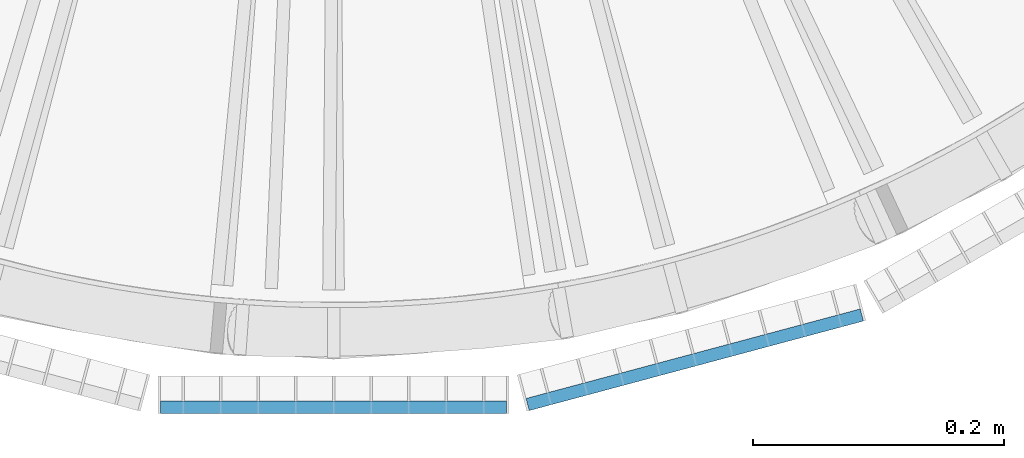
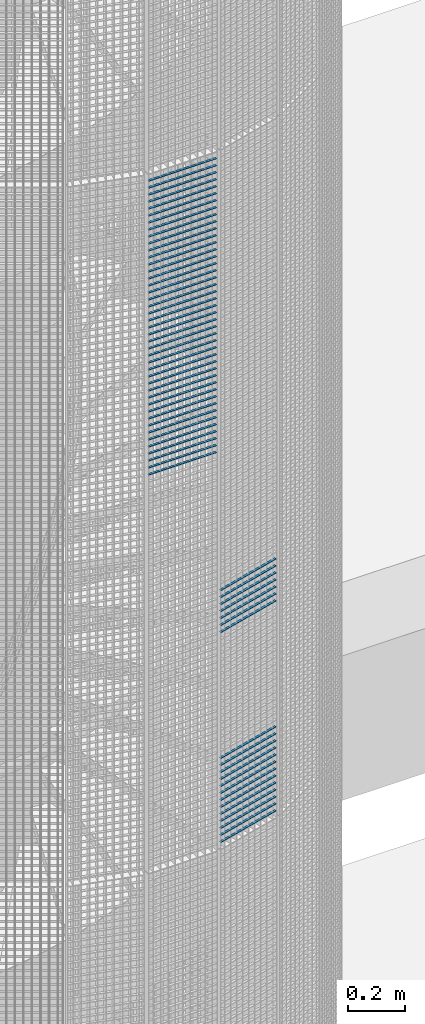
# One storey, part 143 of 1183: 63 beams, 2 elements without a shape of their own.
"""IFC2X3 building model written with IfcOpenShell, lengths in millimetres."""

from ifc_helpers import new_model, si_unit, frame, origin_with_axes, origin_2d_with_axis, place, context, subcontext, project, spatial, rectangle, extrude, material, type_object, element, aggregate, save


model = new_model("IFC2X3")

# Units and contexts
model_context = context("Model", 3, precision=1e-05, world=origin_with_axes())
body_context = subcontext(model_context, "Body", "Model", "MODEL_VIEW")
ifc_project = project(units=[si_unit("LENGTHUNIT", "METRE", prefix="MILLI"), si_unit("AREAUNIT", "SQUARE_METRE"), si_unit("VOLUMEUNIT", "CUBIC_METRE"), si_unit("MASSUNIT", "GRAM", prefix="KILO"), si_unit("TIMEUNIT", "SECOND"), si_unit("PLANEANGLEUNIT", "RADIAN"), si_unit("SOLIDANGLEUNIT", "STERADIAN"), si_unit("THERMODYNAMICTEMPERATUREUNIT", "DEGREE_CELSIUS"), si_unit("LUMINOUSINTENSITYUNIT", "LUMEN")], contexts=[model_context])

# Site, building, storey
site_placement = place(None, origin_with_axes())
site = spatial("IfcSite", under=ifc_project, at=site_placement, Name="Undefined", CompositionType="ELEMENT")
building_placement = place(site_placement, origin_with_axes())
building = spatial("IfcBuilding", under=site, at=building_placement, Name="Undefined", CompositionType="ELEMENT")
storey_placement = place(building_placement, origin_with_axes())
storey = spatial("IfcBuildingStorey", under=building, at=storey_placement, Name="Undefined", CompositionType="ELEMENT", Elevation=0.0)

# Assembly, beams
assembly_1_placement = place(storey_placement, origin_with_axes())
assembly_1 = element("IfcElementAssembly", 1, at=assembly_1_placement, inside=storey, Name="BORDURE", AssemblyPlace="NOTDEFINED", PredefinedType="NOTDEFINED")
ifc_material = material(Name="STEEL/S235JR")
beam_type = type_object("IfcBeamType", Name="PL2*10", PredefinedType="NOTDEFINED")
beam_1_placement = place(assembly_1_placement, frame((154.895926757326, -1111.25508286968, 12390.0), z_axis=(0.258819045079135, -0.965925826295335, 0.0), x_axis=(0.965925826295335, 0.258819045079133, 0.0)))
beam_1 = element("IfcBeam", 2, at=beam_1_placement, type_object=beam_type, material=ifc_material, Name="ENTRETOISE", context=body_context, shape_type="SweptSolid", body=[
    extrude(rectangle(XDim=2.0, YDim=10.0, at=origin_2d_with_axis()), frame((275.999999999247, 9.09494701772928e-13, 1.53210777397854e-14), z_axis=(-1.0, 0.0, 0.0), x_axis=(0.0, -1.0, 0.0)), (0.0, 0.0, 1.0), 276.0),
])
beam_2_placement = place(assembly_1_placement, frame((154.895926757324, -1111.25508286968, 12930.0), z_axis=(0.258819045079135, -0.965925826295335, 0.0), x_axis=(0.965925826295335, 0.258819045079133, 0.0)))
beam_2 = element("IfcBeam", 3, at=beam_2_placement, type_object=beam_type, material=ifc_material, Name="ENTRETOISE", context=body_context, shape_type="SweptSolid", body=[
    extrude(rectangle(XDim=2.0, YDim=10.0, at=origin_2d_with_axis()), frame((275.999999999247, 9.09494701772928e-13, 1.53210777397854e-14), z_axis=(-1.0, 0.0, 0.0), x_axis=(0.0, -1.0, 0.0)), (0.0, 0.0, 1.0), 276.0),
])
beam_3_placement = place(assembly_1_placement, frame((154.895926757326, -1111.25508286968, 12360.0), z_axis=(0.258819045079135, -0.965925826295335, 0.0), x_axis=(0.965925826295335, 0.258819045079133, 0.0)))
beam_3 = element("IfcBeam", 4, at=beam_3_placement, type_object=beam_type, material=ifc_material, Name="ENTRETOISE", context=body_context, shape_type="SweptSolid", body=[
    extrude(rectangle(XDim=2.0, YDim=10.0, at=origin_2d_with_axis()), frame((275.999999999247, 9.09494701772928e-13, 1.53210777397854e-14), z_axis=(-1.0, 0.0, 0.0), x_axis=(0.0, -1.0, 0.0)), (0.0, 0.0, 1.0), 276.0),
])
beam_4_placement = place(assembly_1_placement, frame((154.895926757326, -1111.25508286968, 12330.0), z_axis=(0.258819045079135, -0.965925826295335, 0.0), x_axis=(0.965925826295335, 0.258819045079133, 0.0)))
beam_4 = element("IfcBeam", 5, at=beam_4_placement, type_object=beam_type, material=ifc_material, Name="ENTRETOISE", context=body_context, shape_type="SweptSolid", body=[
    extrude(rectangle(XDim=2.0, YDim=10.0, at=origin_2d_with_axis()), frame((275.999999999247, 9.09494701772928e-13, 1.53210777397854e-14), z_axis=(-1.0, 0.0, 0.0), x_axis=(0.0, -1.0, 0.0)), (0.0, 0.0, 1.0), 276.0),
])
beam_5_placement = place(assembly_1_placement, frame((154.895926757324, -1111.25508286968, 12960.0), z_axis=(0.258819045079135, -0.965925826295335, 0.0), x_axis=(0.965925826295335, 0.258819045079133, 0.0)))
beam_5 = element("IfcBeam", 6, at=beam_5_placement, type_object=beam_type, material=ifc_material, Name="ENTRETOISE", context=body_context, shape_type="SweptSolid", body=[
    extrude(rectangle(XDim=2.0, YDim=10.0, at=origin_2d_with_axis()), frame((275.999999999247, 9.09494701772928e-13, 1.53210777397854e-14), z_axis=(-1.0, 0.0, 0.0), x_axis=(0.0, -1.0, 0.0)), (0.0, 0.0, 1.0), 276.0),
])
beam_6_placement = place(assembly_1_placement, frame((154.895926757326, -1111.25508286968, 12300.0), z_axis=(0.258819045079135, -0.965925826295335, 0.0), x_axis=(0.965925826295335, 0.258819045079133, 0.0)))
beam_6 = element("IfcBeam", 7, at=beam_6_placement, type_object=beam_type, material=ifc_material, Name="ENTRETOISE", context=body_context, shape_type="SweptSolid", body=[
    extrude(rectangle(XDim=2.0, YDim=10.0, at=origin_2d_with_axis()), frame((275.999999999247, 9.09494701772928e-13, 1.53210777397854e-14), z_axis=(-1.0, 0.0, 0.0), x_axis=(0.0, -1.0, 0.0)), (0.0, 0.0, 1.0), 276.0),
])
beam_7_placement = place(assembly_1_placement, frame((154.895926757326, -1111.25508286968, 12270.0), z_axis=(0.258819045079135, -0.965925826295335, 0.0), x_axis=(0.965925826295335, 0.258819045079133, 0.0)))
beam_7 = element("IfcBeam", 8, at=beam_7_placement, type_object=beam_type, material=ifc_material, Name="ENTRETOISE", context=body_context, shape_type="SweptSolid", body=[
    extrude(rectangle(XDim=2.0, YDim=10.0, at=origin_2d_with_axis()), frame((275.999999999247, 9.09494701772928e-13, 1.53210777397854e-14), z_axis=(-1.0, 0.0, 0.0), x_axis=(0.0, -1.0, 0.0)), (0.0, 0.0, 1.0), 276.0),
])
beam_8_placement = place(assembly_1_placement, frame((154.895926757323, -1111.25508286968, 12990.0), z_axis=(0.258819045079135, -0.965925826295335, 0.0), x_axis=(0.965925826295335, 0.258819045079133, 0.0)))
beam_8 = element("IfcBeam", 9, at=beam_8_placement, type_object=beam_type, material=ifc_material, Name="ENTRETOISE", context=body_context, shape_type="SweptSolid", body=[
    extrude(rectangle(XDim=2.0, YDim=10.0, at=origin_2d_with_axis()), frame((275.999999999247, 9.09494701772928e-13, 1.53210777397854e-14), z_axis=(-1.0, 0.0, 0.0), x_axis=(0.0, -1.0, 0.0)), (0.0, 0.0, 1.0), 276.0),
])
beam_9_placement = place(assembly_1_placement, frame((154.895926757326, -1111.25508286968, 12240.0), z_axis=(0.258819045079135, -0.965925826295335, 0.0), x_axis=(0.965925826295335, 0.258819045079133, 0.0)))
beam_9 = element("IfcBeam", 10, at=beam_9_placement, type_object=beam_type, material=ifc_material, Name="ENTRETOISE", context=body_context, shape_type="SweptSolid", body=[
    extrude(rectangle(XDim=2.0, YDim=10.0, at=origin_2d_with_axis()), frame((275.999999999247, 9.09494701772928e-13, 1.53210777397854e-14), z_axis=(-1.0, 0.0, 0.0), x_axis=(0.0, -1.0, 0.0)), (0.0, 0.0, 1.0), 276.0),
])
beam_10_placement = place(assembly_1_placement, frame((154.895926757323, -1111.25508286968, 13020.0), z_axis=(0.258819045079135, -0.965925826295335, 0.0), x_axis=(0.965925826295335, 0.258819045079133, 0.0)))
beam_10 = element("IfcBeam", 11, at=beam_10_placement, type_object=beam_type, material=ifc_material, Name="ENTRETOISE", context=body_context, shape_type="SweptSolid", body=[
    extrude(rectangle(XDim=2.0, YDim=10.0, at=origin_2d_with_axis()), frame((275.999999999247, 9.09494701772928e-13, 1.53210777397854e-14), z_axis=(-1.0, 0.0, 0.0), x_axis=(0.0, -1.0, 0.0)), (0.0, 0.0, 1.0), 276.0),
])
beam_11_placement = place(assembly_1_placement, frame((154.895926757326, -1111.25508286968, 12210.0), z_axis=(0.258819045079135, -0.965925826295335, 0.0), x_axis=(0.965925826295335, 0.258819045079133, 0.0)))
beam_11 = element("IfcBeam", 12, at=beam_11_placement, type_object=beam_type, material=ifc_material, Name="ENTRETOISE", context=body_context, shape_type="SweptSolid", body=[
    extrude(rectangle(XDim=2.0, YDim=10.0, at=origin_2d_with_axis()), frame((275.999999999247, 9.09494701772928e-13, 1.53210777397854e-14), z_axis=(-1.0, 0.0, 0.0), x_axis=(0.0, -1.0, 0.0)), (0.0, 0.0, 1.0), 276.0),
])
beam_12_placement = place(assembly_1_placement, frame((154.895926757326, -1111.25508286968, 12180.0), z_axis=(0.258819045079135, -0.965925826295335, 0.0), x_axis=(0.965925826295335, 0.258819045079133, 0.0)))
beam_12 = element("IfcBeam", 13, at=beam_12_placement, type_object=beam_type, material=ifc_material, Name="ENTRETOISE", context=body_context, shape_type="SweptSolid", body=[
    extrude(rectangle(XDim=2.0, YDim=10.0, at=origin_2d_with_axis()), frame((275.999999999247, 9.09494701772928e-13, 1.53210777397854e-14), z_axis=(-1.0, 0.0, 0.0), x_axis=(0.0, -1.0, 0.0)), (0.0, 0.0, 1.0), 276.0),
])
beam_13_placement = place(assembly_1_placement, frame((154.895926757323, -1111.25508286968, 13050.0), z_axis=(0.258819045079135, -0.965925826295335, 0.0), x_axis=(0.965925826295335, 0.258819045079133, 0.0)))
beam_13 = element("IfcBeam", 14, at=beam_13_placement, type_object=beam_type, material=ifc_material, Name="ENTRETOISE", context=body_context, shape_type="SweptSolid", body=[
    extrude(rectangle(XDim=2.0, YDim=10.0, at=origin_2d_with_axis()), frame((275.999999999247, 9.09494701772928e-13, 1.53210777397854e-14), z_axis=(-1.0, 0.0, 0.0), x_axis=(0.0, -1.0, 0.0)), (0.0, 0.0, 1.0), 276.0),
])
beam_14_placement = place(assembly_1_placement, frame((154.895926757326, -1111.25508286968, 12150.0), z_axis=(0.258819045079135, -0.965925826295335, 0.0), x_axis=(0.965925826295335, 0.258819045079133, 0.0)))
beam_14 = element("IfcBeam", 15, at=beam_14_placement, type_object=beam_type, material=ifc_material, Name="ENTRETOISE", context=body_context, shape_type="SweptSolid", body=[
    extrude(rectangle(XDim=2.0, YDim=10.0, at=origin_2d_with_axis()), frame((275.999999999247, 9.09494701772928e-13, 1.53210777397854e-14), z_axis=(-1.0, 0.0, 0.0), x_axis=(0.0, -1.0, 0.0)), (0.0, 0.0, 1.0), 276.0),
])
beam_15_placement = place(assembly_1_placement, frame((154.895926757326, -1111.25508286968, 12120.0), z_axis=(0.258819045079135, -0.965925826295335, 0.0), x_axis=(0.965925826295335, 0.258819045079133, 0.0)))
beam_15 = element("IfcBeam", 16, at=beam_15_placement, type_object=beam_type, material=ifc_material, Name="ENTRETOISE", context=body_context, shape_type="SweptSolid", body=[
    extrude(rectangle(XDim=2.0, YDim=10.0, at=origin_2d_with_axis()), frame((275.999999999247, 9.09494701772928e-13, 1.53210777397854e-14), z_axis=(-1.0, 0.0, 0.0), x_axis=(0.0, -1.0, 0.0)), (0.0, 0.0, 1.0), 276.0),
])
beam_16_placement = place(assembly_1_placement, frame((154.895926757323, -1111.25508286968, 13080.0), z_axis=(0.258819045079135, -0.965925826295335, 0.0), x_axis=(0.965925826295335, 0.258819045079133, 0.0)))
beam_16 = element("IfcBeam", 17, at=beam_16_placement, type_object=beam_type, material=ifc_material, Name="ENTRETOISE", context=body_context, shape_type="SweptSolid", body=[
    extrude(rectangle(XDim=2.0, YDim=10.0, at=origin_2d_with_axis()), frame((275.999999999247, 9.09494701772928e-13, 1.53210777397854e-14), z_axis=(-1.0, 0.0, 0.0), x_axis=(0.0, -1.0, 0.0)), (0.0, 0.0, 1.0), 276.0),
])
beam_17_placement = place(assembly_1_placement, frame((154.895926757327, -1111.25508286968, 12090.0), z_axis=(0.258819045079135, -0.965925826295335, 0.0), x_axis=(0.965925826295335, 0.258819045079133, 0.0)))
beam_17 = element("IfcBeam", 18, at=beam_17_placement, type_object=beam_type, material=ifc_material, Name="ENTRETOISE", context=body_context, shape_type="SweptSolid", body=[
    extrude(rectangle(XDim=2.0, YDim=10.0, at=origin_2d_with_axis()), frame((275.999999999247, 9.09494701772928e-13, 1.53210777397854e-14), z_axis=(-1.0, 0.0, 0.0), x_axis=(0.0, -1.0, 0.0)), (0.0, 0.0, 1.0), 276.0),
])
beam_18_placement = place(assembly_1_placement, frame((154.895926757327, -1111.25508286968, 12060.0), z_axis=(0.258819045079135, -0.965925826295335, 0.0), x_axis=(0.965925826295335, 0.258819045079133, 0.0)))
beam_18 = element("IfcBeam", 19, at=beam_18_placement, type_object=beam_type, material=ifc_material, Name="ENTRETOISE", context=body_context, shape_type="SweptSolid", body=[
    extrude(rectangle(XDim=2.0, YDim=10.0, at=origin_2d_with_axis()), frame((275.999999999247, 9.09494701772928e-13, 1.53210777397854e-14), z_axis=(-1.0, 0.0, 0.0), x_axis=(0.0, -1.0, 0.0)), (0.0, 0.0, 1.0), 276.0),
])
beam_19_placement = place(assembly_1_placement, frame((154.895926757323, -1111.25508286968, 13110.0), z_axis=(0.258819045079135, -0.965925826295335, 0.0), x_axis=(0.965925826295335, 0.258819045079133, 0.0)))
beam_19 = element("IfcBeam", 20, at=beam_19_placement, type_object=beam_type, material=ifc_material, Name="ENTRETOISE", context=body_context, shape_type="SweptSolid", body=[
    extrude(rectangle(XDim=2.0, YDim=10.0, at=origin_2d_with_axis()), frame((275.999999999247, 9.09494701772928e-13, 1.53210777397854e-14), z_axis=(-1.0, 0.0, 0.0), x_axis=(0.0, -1.0, 0.0)), (0.0, 0.0, 1.0), 276.0),
])
beam_20_placement = place(assembly_1_placement, frame((154.895926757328, -1111.25508286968, 12030.0), z_axis=(0.258819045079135, -0.965925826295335, 0.0), x_axis=(0.965925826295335, 0.258819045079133, 0.0)))
beam_20 = element("IfcBeam", 21, at=beam_20_placement, type_object=beam_type, material=ifc_material, Name="ENTRETOISE", context=body_context, shape_type="SweptSolid", body=[
    extrude(rectangle(XDim=2.0, YDim=10.0, at=origin_2d_with_axis()), frame((275.999999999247, 9.09494701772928e-13, 1.53210777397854e-14), z_axis=(-1.0, 0.0, 0.0), x_axis=(0.0, -1.0, 0.0)), (0.0, 0.0, 1.0), 276.0),
])
aggregate(assembly_1, [beam_1, beam_2, beam_3, beam_4, beam_5, beam_6, beam_7, beam_8, beam_9, beam_10, beam_11, beam_12, beam_13, beam_14, beam_15, beam_16, beam_17, beam_18, beam_19, beam_20])

assembly_2_placement = place(storey_placement, origin_with_axes())
assembly_2 = element("IfcElementAssembly", 22, at=assembly_2_placement, inside=storey, Name="BORDURE", AssemblyPlace="NOTDEFINED", PredefinedType="NOTDEFINED")
beam_21_placement = place(assembly_2_placement, frame((-137.996003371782, -1113.47999999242, 14970.0), z_axis=(0.0, -1.0, 0.0), x_axis=(1.0, 0.0, 0.0)))
beam_21 = element("IfcBeam", 23, at=beam_21_placement, type_object=beam_type, material=ifc_material, Name="ENTRETOISE", context=body_context, shape_type="SweptSolid", body=[
    extrude(rectangle(XDim=2.0, YDim=10.0, at=origin_2d_with_axis()), frame((275.999999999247, 9.09494701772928e-13, 1.53210777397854e-14), z_axis=(-1.0, 0.0, 0.0), x_axis=(0.0, -1.0, 0.0)), (0.0, 0.0, 1.0), 276.0),
])
beam_22_placement = place(assembly_2_placement, frame((-137.996003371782, -1113.47999999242, 14940.0), z_axis=(0.0, -1.0, 0.0), x_axis=(1.0, 0.0, 0.0)))
beam_22 = element("IfcBeam", 24, at=beam_22_placement, type_object=beam_type, material=ifc_material, Name="ENTRETOISE", context=body_context, shape_type="SweptSolid", body=[
    extrude(rectangle(XDim=2.0, YDim=10.0, at=origin_2d_with_axis()), frame((275.999999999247, 9.09494701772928e-13, 1.53210777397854e-14), z_axis=(-1.0, 0.0, 0.0), x_axis=(0.0, -1.0, 0.0)), (0.0, 0.0, 1.0), 276.0),
])
beam_23_placement = place(assembly_2_placement, frame((-137.996003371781, -1113.47999999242, 14910.0), z_axis=(0.0, -1.0, 0.0), x_axis=(1.0, 0.0, 0.0)))
beam_23 = element("IfcBeam", 25, at=beam_23_placement, type_object=beam_type, material=ifc_material, Name="ENTRETOISE", context=body_context, shape_type="SweptSolid", body=[
    extrude(rectangle(XDim=2.0, YDim=10.0, at=origin_2d_with_axis()), frame((275.999999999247, 9.09494701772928e-13, 1.53210777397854e-14), z_axis=(-1.0, 0.0, 0.0), x_axis=(0.0, -1.0, 0.0)), (0.0, 0.0, 1.0), 276.0),
])
beam_24_placement = place(assembly_2_placement, frame((-137.996003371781, -1113.47999999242, 14880.0), z_axis=(0.0, -1.0, 0.0), x_axis=(1.0, 0.0, 0.0)))
beam_24 = element("IfcBeam", 26, at=beam_24_placement, type_object=beam_type, material=ifc_material, Name="ENTRETOISE", context=body_context, shape_type="SweptSolid", body=[
    extrude(rectangle(XDim=2.0, YDim=10.0, at=origin_2d_with_axis()), frame((275.999999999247, 9.09494701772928e-13, 1.53210777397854e-14), z_axis=(-1.0, 0.0, 0.0), x_axis=(0.0, -1.0, 0.0)), (0.0, 0.0, 1.0), 276.0),
])
beam_25_placement = place(assembly_2_placement, frame((-137.996003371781, -1113.47999999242, 14850.0), z_axis=(0.0, -1.0, 0.0), x_axis=(1.0, 0.0, 0.0)))
beam_25 = element("IfcBeam", 27, at=beam_25_placement, type_object=beam_type, material=ifc_material, Name="ENTRETOISE", context=body_context, shape_type="SweptSolid", body=[
    extrude(rectangle(XDim=2.0, YDim=10.0, at=origin_2d_with_axis()), frame((275.999999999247, 9.09494701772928e-13, 1.53210777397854e-14), z_axis=(-1.0, 0.0, 0.0), x_axis=(0.0, -1.0, 0.0)), (0.0, 0.0, 1.0), 276.0),
])
beam_26_placement = place(assembly_2_placement, frame((-137.996003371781, -1113.47999999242, 14820.0), z_axis=(0.0, -1.0, 0.0), x_axis=(1.0, 0.0, 0.0)))
beam_26 = element("IfcBeam", 28, at=beam_26_placement, type_object=beam_type, material=ifc_material, Name="ENTRETOISE", context=body_context, shape_type="SweptSolid", body=[
    extrude(rectangle(XDim=2.0, YDim=10.0, at=origin_2d_with_axis()), frame((275.999999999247, 9.09494701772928e-13, 1.53210777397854e-14), z_axis=(-1.0, 0.0, 0.0), x_axis=(0.0, -1.0, 0.0)), (0.0, 0.0, 1.0), 276.0),
])
beam_27_placement = place(assembly_2_placement, frame((-137.996003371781, -1113.47999999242, 14790.0), z_axis=(0.0, -1.0, 0.0), x_axis=(1.0, 0.0, 0.0)))
beam_27 = element("IfcBeam", 29, at=beam_27_placement, type_object=beam_type, material=ifc_material, Name="ENTRETOISE", context=body_context, shape_type="SweptSolid", body=[
    extrude(rectangle(XDim=2.0, YDim=10.0, at=origin_2d_with_axis()), frame((275.999999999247, 9.09494701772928e-13, 1.53210777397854e-14), z_axis=(-1.0, 0.0, 0.0), x_axis=(0.0, -1.0, 0.0)), (0.0, 0.0, 1.0), 276.0),
])
beam_28_placement = place(assembly_2_placement, frame((-137.996003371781, -1113.47999999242, 14760.0), z_axis=(0.0, -1.0, 0.0), x_axis=(1.0, 0.0, 0.0)))
beam_28 = element("IfcBeam", 30, at=beam_28_placement, type_object=beam_type, material=ifc_material, Name="ENTRETOISE", context=body_context, shape_type="SweptSolid", body=[
    extrude(rectangle(XDim=2.0, YDim=10.0, at=origin_2d_with_axis()), frame((275.999999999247, 9.09494701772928e-13, 1.53210777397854e-14), z_axis=(-1.0, 0.0, 0.0), x_axis=(0.0, -1.0, 0.0)), (0.0, 0.0, 1.0), 276.0),
])
beam_29_placement = place(assembly_2_placement, frame((-137.996003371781, -1113.47999999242, 14730.0), z_axis=(0.0, -1.0, 0.0), x_axis=(1.0, 0.0, 0.0)))
beam_29 = element("IfcBeam", 31, at=beam_29_placement, type_object=beam_type, material=ifc_material, Name="ENTRETOISE", context=body_context, shape_type="SweptSolid", body=[
    extrude(rectangle(XDim=2.0, YDim=10.0, at=origin_2d_with_axis()), frame((275.999999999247, 9.09494701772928e-13, 1.53210777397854e-14), z_axis=(-1.0, 0.0, 0.0), x_axis=(0.0, -1.0, 0.0)), (0.0, 0.0, 1.0), 276.0),
])
beam_30_placement = place(assembly_2_placement, frame((-137.996003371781, -1113.47999999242, 14700.0), z_axis=(0.0, -1.0, 0.0), x_axis=(1.0, 0.0, 0.0)))
beam_30 = element("IfcBeam", 32, at=beam_30_placement, type_object=beam_type, material=ifc_material, Name="ENTRETOISE", context=body_context, shape_type="SweptSolid", body=[
    extrude(rectangle(XDim=2.0, YDim=10.0, at=origin_2d_with_axis()), frame((275.999999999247, 9.09494701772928e-13, 1.53210777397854e-14), z_axis=(-1.0, 0.0, 0.0), x_axis=(0.0, -1.0, 0.0)), (0.0, 0.0, 1.0), 276.0),
])
beam_31_placement = place(assembly_2_placement, frame((-137.996003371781, -1113.47999999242, 14670.0), z_axis=(0.0, -1.0, 0.0), x_axis=(1.0, 0.0, 0.0)))
beam_31 = element("IfcBeam", 33, at=beam_31_placement, type_object=beam_type, material=ifc_material, Name="ENTRETOISE", context=body_context, shape_type="SweptSolid", body=[
    extrude(rectangle(XDim=2.0, YDim=10.0, at=origin_2d_with_axis()), frame((275.999999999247, 9.09494701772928e-13, 1.53210777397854e-14), z_axis=(-1.0, 0.0, 0.0), x_axis=(0.0, -1.0, 0.0)), (0.0, 0.0, 1.0), 276.0),
])
beam_32_placement = place(assembly_2_placement, frame((-137.996003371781, -1113.47999999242, 14640.0), z_axis=(0.0, -1.0, 0.0), x_axis=(1.0, 0.0, 0.0)))
beam_32 = element("IfcBeam", 34, at=beam_32_placement, type_object=beam_type, material=ifc_material, Name="ENTRETOISE", context=body_context, shape_type="SweptSolid", body=[
    extrude(rectangle(XDim=2.0, YDim=10.0, at=origin_2d_with_axis()), frame((275.999999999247, 9.09494701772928e-13, 1.53210777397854e-14), z_axis=(-1.0, 0.0, 0.0), x_axis=(0.0, -1.0, 0.0)), (0.0, 0.0, 1.0), 276.0),
])
beam_33_placement = place(assembly_2_placement, frame((-137.99600337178, -1113.47999999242, 14610.0), z_axis=(0.0, -1.0, 0.0), x_axis=(1.0, 0.0, 0.0)))
beam_33 = element("IfcBeam", 35, at=beam_33_placement, type_object=beam_type, material=ifc_material, Name="ENTRETOISE", context=body_context, shape_type="SweptSolid", body=[
    extrude(rectangle(XDim=2.0, YDim=10.0, at=origin_2d_with_axis()), frame((275.999999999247, 9.09494701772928e-13, 1.53210777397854e-14), z_axis=(-1.0, 0.0, 0.0), x_axis=(0.0, -1.0, 0.0)), (0.0, 0.0, 1.0), 276.0),
])
beam_34_placement = place(assembly_2_placement, frame((-137.99600337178, -1113.47999999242, 14580.0), z_axis=(0.0, -1.0, 0.0), x_axis=(1.0, 0.0, 0.0)))
beam_34 = element("IfcBeam", 36, at=beam_34_placement, type_object=beam_type, material=ifc_material, Name="ENTRETOISE", context=body_context, shape_type="SweptSolid", body=[
    extrude(rectangle(XDim=2.0, YDim=10.0, at=origin_2d_with_axis()), frame((275.999999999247, 9.09494701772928e-13, 1.53210777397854e-14), z_axis=(-1.0, 0.0, 0.0), x_axis=(0.0, -1.0, 0.0)), (0.0, 0.0, 1.0), 276.0),
])
beam_35_placement = place(assembly_2_placement, frame((-137.99600337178, -1113.47999999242, 14550.0), z_axis=(0.0, -1.0, 0.0), x_axis=(1.0, 0.0, 0.0)))
beam_35 = element("IfcBeam", 37, at=beam_35_placement, type_object=beam_type, material=ifc_material, Name="ENTRETOISE", context=body_context, shape_type="SweptSolid", body=[
    extrude(rectangle(XDim=2.0, YDim=10.0, at=origin_2d_with_axis()), frame((275.999999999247, 9.09494701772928e-13, 1.53210777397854e-14), z_axis=(-1.0, 0.0, 0.0), x_axis=(0.0, -1.0, 0.0)), (0.0, 0.0, 1.0), 276.0),
])
beam_36_placement = place(assembly_2_placement, frame((-137.99600337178, -1113.47999999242, 14520.0), z_axis=(0.0, -1.0, 0.0), x_axis=(1.0, 0.0, 0.0)))
beam_36 = element("IfcBeam", 38, at=beam_36_placement, type_object=beam_type, material=ifc_material, Name="ENTRETOISE", context=body_context, shape_type="SweptSolid", body=[
    extrude(rectangle(XDim=2.0, YDim=10.0, at=origin_2d_with_axis()), frame((275.999999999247, 9.09494701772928e-13, 1.53210777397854e-14), z_axis=(-1.0, 0.0, 0.0), x_axis=(0.0, -1.0, 0.0)), (0.0, 0.0, 1.0), 276.0),
])
beam_37_placement = place(assembly_2_placement, frame((-137.99600337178, -1113.47999999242, 14490.0), z_axis=(0.0, -1.0, 0.0), x_axis=(1.0, 0.0, 0.0)))
beam_37 = element("IfcBeam", 39, at=beam_37_placement, type_object=beam_type, material=ifc_material, Name="ENTRETOISE", context=body_context, shape_type="SweptSolid", body=[
    extrude(rectangle(XDim=2.0, YDim=10.0, at=origin_2d_with_axis()), frame((275.999999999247, 9.09494701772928e-13, 1.53210777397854e-14), z_axis=(-1.0, 0.0, 0.0), x_axis=(0.0, -1.0, 0.0)), (0.0, 0.0, 1.0), 276.0),
])
beam_38_placement = place(assembly_2_placement, frame((-137.99600337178, -1113.47999999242, 14460.0), z_axis=(0.0, -1.0, 0.0), x_axis=(1.0, 0.0, 0.0)))
beam_38 = element("IfcBeam", 40, at=beam_38_placement, type_object=beam_type, material=ifc_material, Name="ENTRETOISE", context=body_context, shape_type="SweptSolid", body=[
    extrude(rectangle(XDim=2.0, YDim=10.0, at=origin_2d_with_axis()), frame((275.999999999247, 9.09494701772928e-13, 1.53210777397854e-14), z_axis=(-1.0, 0.0, 0.0), x_axis=(0.0, -1.0, 0.0)), (0.0, 0.0, 1.0), 276.0),
])
beam_39_placement = place(assembly_2_placement, frame((-137.99600337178, -1113.47999999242, 14430.0), z_axis=(0.0, -1.0, 0.0), x_axis=(1.0, 0.0, 0.0)))
beam_39 = element("IfcBeam", 41, at=beam_39_placement, type_object=beam_type, material=ifc_material, Name="ENTRETOISE", context=body_context, shape_type="SweptSolid", body=[
    extrude(rectangle(XDim=2.0, YDim=10.0, at=origin_2d_with_axis()), frame((275.999999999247, 9.09494701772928e-13, 1.53210777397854e-14), z_axis=(-1.0, 0.0, 0.0), x_axis=(0.0, -1.0, 0.0)), (0.0, 0.0, 1.0), 276.0),
])
beam_40_placement = place(assembly_2_placement, frame((-137.99600337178, -1113.47999999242, 14400.0), z_axis=(0.0, -1.0, 0.0), x_axis=(1.0, 0.0, 0.0)))
beam_40 = element("IfcBeam", 42, at=beam_40_placement, type_object=beam_type, material=ifc_material, Name="ENTRETOISE", context=body_context, shape_type="SweptSolid", body=[
    extrude(rectangle(XDim=2.0, YDim=10.0, at=origin_2d_with_axis()), frame((275.999999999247, 9.09494701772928e-13, 1.53210777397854e-14), z_axis=(-1.0, 0.0, 0.0), x_axis=(0.0, -1.0, 0.0)), (0.0, 0.0, 1.0), 276.0),
])
beam_41_placement = place(assembly_2_placement, frame((-137.99600337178, -1113.47999999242, 14370.0), z_axis=(0.0, -1.0, 0.0), x_axis=(1.0, 0.0, 0.0)))
beam_41 = element("IfcBeam", 43, at=beam_41_placement, type_object=beam_type, material=ifc_material, Name="ENTRETOISE", context=body_context, shape_type="SweptSolid", body=[
    extrude(rectangle(XDim=2.0, YDim=10.0, at=origin_2d_with_axis()), frame((275.999999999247, 9.09494701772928e-13, 1.53210777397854e-14), z_axis=(-1.0, 0.0, 0.0), x_axis=(0.0, -1.0, 0.0)), (0.0, 0.0, 1.0), 276.0),
])
beam_42_placement = place(assembly_2_placement, frame((-137.99600337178, -1113.47999999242, 14340.0), z_axis=(0.0, -1.0, 0.0), x_axis=(1.0, 0.0, 0.0)))
beam_42 = element("IfcBeam", 44, at=beam_42_placement, type_object=beam_type, material=ifc_material, Name="ENTRETOISE", context=body_context, shape_type="SweptSolid", body=[
    extrude(rectangle(XDim=2.0, YDim=10.0, at=origin_2d_with_axis()), frame((275.999999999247, 9.09494701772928e-13, 1.53210777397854e-14), z_axis=(-1.0, 0.0, 0.0), x_axis=(0.0, -1.0, 0.0)), (0.0, 0.0, 1.0), 276.0),
])
beam_43_placement = place(assembly_2_placement, frame((-137.996003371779, -1113.47999999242, 14310.0), z_axis=(0.0, -1.0, 0.0), x_axis=(1.0, 0.0, 0.0)))
beam_43 = element("IfcBeam", 45, at=beam_43_placement, type_object=beam_type, material=ifc_material, Name="ENTRETOISE", context=body_context, shape_type="SweptSolid", body=[
    extrude(rectangle(XDim=2.0, YDim=10.0, at=origin_2d_with_axis()), frame((275.999999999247, 9.09494701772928e-13, 1.53210777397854e-14), z_axis=(-1.0, 0.0, 0.0), x_axis=(0.0, -1.0, 0.0)), (0.0, 0.0, 1.0), 276.0),
])
beam_44_placement = place(assembly_2_placement, frame((-137.996003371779, -1113.47999999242, 14280.0), z_axis=(0.0, -1.0, 0.0), x_axis=(1.0, 0.0, 0.0)))
beam_44 = element("IfcBeam", 46, at=beam_44_placement, type_object=beam_type, material=ifc_material, Name="ENTRETOISE", context=body_context, shape_type="SweptSolid", body=[
    extrude(rectangle(XDim=2.0, YDim=10.0, at=origin_2d_with_axis()), frame((275.999999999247, 9.09494701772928e-13, 1.53210777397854e-14), z_axis=(-1.0, 0.0, 0.0), x_axis=(0.0, -1.0, 0.0)), (0.0, 0.0, 1.0), 276.0),
])
beam_45_placement = place(assembly_2_placement, frame((-137.996003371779, -1113.47999999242, 14250.0), z_axis=(0.0, -1.0, 0.0), x_axis=(1.0, 0.0, 0.0)))
beam_45 = element("IfcBeam", 47, at=beam_45_placement, type_object=beam_type, material=ifc_material, Name="ENTRETOISE", context=body_context, shape_type="SweptSolid", body=[
    extrude(rectangle(XDim=2.0, YDim=10.0, at=origin_2d_with_axis()), frame((275.999999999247, 9.09494701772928e-13, 1.53210777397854e-14), z_axis=(-1.0, 0.0, 0.0), x_axis=(0.0, -1.0, 0.0)), (0.0, 0.0, 1.0), 276.0),
])
beam_46_placement = place(assembly_2_placement, frame((-137.996003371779, -1113.47999999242, 14220.0), z_axis=(0.0, -1.0, 0.0), x_axis=(1.0, 0.0, 0.0)))
beam_46 = element("IfcBeam", 48, at=beam_46_placement, type_object=beam_type, material=ifc_material, Name="ENTRETOISE", context=body_context, shape_type="SweptSolid", body=[
    extrude(rectangle(XDim=2.0, YDim=10.0, at=origin_2d_with_axis()), frame((275.999999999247, 9.09494701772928e-13, 1.53210777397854e-14), z_axis=(-1.0, 0.0, 0.0), x_axis=(0.0, -1.0, 0.0)), (0.0, 0.0, 1.0), 276.0),
])
beam_47_placement = place(assembly_2_placement, frame((-137.996003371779, -1113.47999999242, 14190.0), z_axis=(0.0, -1.0, 0.0), x_axis=(1.0, 0.0, 0.0)))
beam_47 = element("IfcBeam", 49, at=beam_47_placement, type_object=beam_type, material=ifc_material, Name="ENTRETOISE", context=body_context, shape_type="SweptSolid", body=[
    extrude(rectangle(XDim=2.0, YDim=10.0, at=origin_2d_with_axis()), frame((275.999999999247, 9.09494701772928e-13, 1.53210777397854e-14), z_axis=(-1.0, 0.0, 0.0), x_axis=(0.0, -1.0, 0.0)), (0.0, 0.0, 1.0), 276.0),
])
beam_48_placement = place(assembly_2_placement, frame((-137.996003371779, -1113.47999999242, 14160.0), z_axis=(0.0, -1.0, 0.0), x_axis=(1.0, 0.0, 0.0)))
beam_48 = element("IfcBeam", 50, at=beam_48_placement, type_object=beam_type, material=ifc_material, Name="ENTRETOISE", context=body_context, shape_type="SweptSolid", body=[
    extrude(rectangle(XDim=2.0, YDim=10.0, at=origin_2d_with_axis()), frame((275.999999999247, 9.09494701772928e-13, 1.53210777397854e-14), z_axis=(-1.0, 0.0, 0.0), x_axis=(0.0, -1.0, 0.0)), (0.0, 0.0, 1.0), 276.0),
])
beam_49_placement = place(assembly_2_placement, frame((-137.996003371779, -1113.47999999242, 14130.0), z_axis=(0.0, -1.0, 0.0), x_axis=(1.0, 0.0, 0.0)))
beam_49 = element("IfcBeam", 51, at=beam_49_placement, type_object=beam_type, material=ifc_material, Name="ENTRETOISE", context=body_context, shape_type="SweptSolid", body=[
    extrude(rectangle(XDim=2.0, YDim=10.0, at=origin_2d_with_axis()), frame((275.999999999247, 9.09494701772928e-13, 1.53210777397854e-14), z_axis=(-1.0, 0.0, 0.0), x_axis=(0.0, -1.0, 0.0)), (0.0, 0.0, 1.0), 276.0),
])
beam_50_placement = place(assembly_2_placement, frame((-137.996003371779, -1113.47999999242, 14100.0), z_axis=(0.0, -1.0, 0.0), x_axis=(1.0, 0.0, 0.0)))
beam_50 = element("IfcBeam", 52, at=beam_50_placement, type_object=beam_type, material=ifc_material, Name="ENTRETOISE", context=body_context, shape_type="SweptSolid", body=[
    extrude(rectangle(XDim=2.0, YDim=10.0, at=origin_2d_with_axis()), frame((275.999999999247, 9.09494701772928e-13, 1.53210777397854e-14), z_axis=(-1.0, 0.0, 0.0), x_axis=(0.0, -1.0, 0.0)), (0.0, 0.0, 1.0), 276.0),
])
beam_51_placement = place(assembly_2_placement, frame((-137.996003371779, -1113.47999999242, 14070.0), z_axis=(0.0, -1.0, 0.0), x_axis=(1.0, 0.0, 0.0)))
beam_51 = element("IfcBeam", 53, at=beam_51_placement, type_object=beam_type, material=ifc_material, Name="ENTRETOISE", context=body_context, shape_type="SweptSolid", body=[
    extrude(rectangle(XDim=2.0, YDim=10.0, at=origin_2d_with_axis()), frame((275.999999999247, 9.09494701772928e-13, 1.53210777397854e-14), z_axis=(-1.0, 0.0, 0.0), x_axis=(0.0, -1.0, 0.0)), (0.0, 0.0, 1.0), 276.0),
])
beam_52_placement = place(assembly_2_placement, frame((-137.996003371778, -1113.47999999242, 14040.0), z_axis=(0.0, -1.0, 0.0), x_axis=(1.0, 0.0, 0.0)))
beam_52 = element("IfcBeam", 54, at=beam_52_placement, type_object=beam_type, material=ifc_material, Name="ENTRETOISE", context=body_context, shape_type="SweptSolid", body=[
    extrude(rectangle(XDim=2.0, YDim=10.0, at=origin_2d_with_axis()), frame((275.999999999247, 9.09494701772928e-13, 1.53210777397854e-14), z_axis=(-1.0, 0.0, 0.0), x_axis=(0.0, -1.0, 0.0)), (0.0, 0.0, 1.0), 276.0),
])
beam_53_placement = place(assembly_2_placement, frame((-137.996003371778, -1113.47999999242, 14010.0), z_axis=(0.0, -1.0, 0.0), x_axis=(1.0, 0.0, 0.0)))
beam_53 = element("IfcBeam", 55, at=beam_53_placement, type_object=beam_type, material=ifc_material, Name="ENTRETOISE", context=body_context, shape_type="SweptSolid", body=[
    extrude(rectangle(XDim=2.0, YDim=10.0, at=origin_2d_with_axis()), frame((275.999999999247, 9.09494701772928e-13, 1.53210777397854e-14), z_axis=(-1.0, 0.0, 0.0), x_axis=(0.0, -1.0, 0.0)), (0.0, 0.0, 1.0), 276.0),
])
beam_54_placement = place(assembly_2_placement, frame((-137.996003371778, -1113.47999999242, 13980.0), z_axis=(0.0, -1.0, 0.0), x_axis=(1.0, 0.0, 0.0)))
beam_54 = element("IfcBeam", 56, at=beam_54_placement, type_object=beam_type, material=ifc_material, Name="ENTRETOISE", context=body_context, shape_type="SweptSolid", body=[
    extrude(rectangle(XDim=2.0, YDim=10.0, at=origin_2d_with_axis()), frame((275.999999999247, 9.09494701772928e-13, 1.53210777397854e-14), z_axis=(-1.0, 0.0, 0.0), x_axis=(0.0, -1.0, 0.0)), (0.0, 0.0, 1.0), 276.0),
])
beam_55_placement = place(assembly_2_placement, frame((-137.996003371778, -1113.47999999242, 13950.0), z_axis=(0.0, -1.0, 0.0), x_axis=(1.0, 0.0, 0.0)))
beam_55 = element("IfcBeam", 57, at=beam_55_placement, type_object=beam_type, material=ifc_material, Name="ENTRETOISE", context=body_context, shape_type="SweptSolid", body=[
    extrude(rectangle(XDim=2.0, YDim=10.0, at=origin_2d_with_axis()), frame((275.999999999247, 9.09494701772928e-13, 1.53210777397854e-14), z_axis=(-1.0, 0.0, 0.0), x_axis=(0.0, -1.0, 0.0)), (0.0, 0.0, 1.0), 276.0),
])
beam_56_placement = place(assembly_2_placement, frame((-137.996003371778, -1113.47999999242, 13920.0), z_axis=(0.0, -1.0, 0.0), x_axis=(1.0, 0.0, 0.0)))
beam_56 = element("IfcBeam", 58, at=beam_56_placement, type_object=beam_type, material=ifc_material, Name="ENTRETOISE", context=body_context, shape_type="SweptSolid", body=[
    extrude(rectangle(XDim=2.0, YDim=10.0, at=origin_2d_with_axis()), frame((275.999999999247, 9.09494701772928e-13, 1.53210777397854e-14), z_axis=(-1.0, 0.0, 0.0), x_axis=(0.0, -1.0, 0.0)), (0.0, 0.0, 1.0), 276.0),
])
beam_57_placement = place(assembly_2_placement, frame((-137.996003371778, -1113.47999999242, 13890.0), z_axis=(0.0, -1.0, 0.0), x_axis=(1.0, 0.0, 0.0)))
beam_57 = element("IfcBeam", 59, at=beam_57_placement, type_object=beam_type, material=ifc_material, Name="ENTRETOISE", context=body_context, shape_type="SweptSolid", body=[
    extrude(rectangle(XDim=2.0, YDim=10.0, at=origin_2d_with_axis()), frame((275.999999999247, 9.09494701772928e-13, 1.53210777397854e-14), z_axis=(-1.0, 0.0, 0.0), x_axis=(0.0, -1.0, 0.0)), (0.0, 0.0, 1.0), 276.0),
])
beam_58_placement = place(assembly_2_placement, frame((-137.996003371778, -1113.47999999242, 13860.0), z_axis=(0.0, -1.0, 0.0), x_axis=(1.0, 0.0, 0.0)))
beam_58 = element("IfcBeam", 60, at=beam_58_placement, type_object=beam_type, material=ifc_material, Name="ENTRETOISE", context=body_context, shape_type="SweptSolid", body=[
    extrude(rectangle(XDim=2.0, YDim=10.0, at=origin_2d_with_axis()), frame((275.999999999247, 9.09494701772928e-13, 1.53210777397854e-14), z_axis=(-1.0, 0.0, 0.0), x_axis=(0.0, -1.0, 0.0)), (0.0, 0.0, 1.0), 276.0),
])
beam_59_placement = place(assembly_2_placement, frame((-137.996003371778, -1113.47999999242, 13830.0), z_axis=(0.0, -1.0, 0.0), x_axis=(1.0, 0.0, 0.0)))
beam_59 = element("IfcBeam", 61, at=beam_59_placement, type_object=beam_type, material=ifc_material, Name="ENTRETOISE", context=body_context, shape_type="SweptSolid", body=[
    extrude(rectangle(XDim=2.0, YDim=10.0, at=origin_2d_with_axis()), frame((275.999999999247, 9.09494701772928e-13, 1.53210777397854e-14), z_axis=(-1.0, 0.0, 0.0), x_axis=(0.0, -1.0, 0.0)), (0.0, 0.0, 1.0), 276.0),
])
beam_60_placement = place(assembly_2_placement, frame((-137.996003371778, -1113.47999999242, 13800.0), z_axis=(0.0, -1.0, 0.0), x_axis=(1.0, 0.0, 0.0)))
beam_60 = element("IfcBeam", 62, at=beam_60_placement, type_object=beam_type, material=ifc_material, Name="ENTRETOISE", context=body_context, shape_type="SweptSolid", body=[
    extrude(rectangle(XDim=2.0, YDim=10.0, at=origin_2d_with_axis()), frame((275.999999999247, 9.09494701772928e-13, 1.53210777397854e-14), z_axis=(-1.0, 0.0, 0.0), x_axis=(0.0, -1.0, 0.0)), (0.0, 0.0, 1.0), 276.0),
])
beam_61_placement = place(assembly_2_placement, frame((-137.996003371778, -1113.47999999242, 13770.0), z_axis=(0.0, -1.0, 0.0), x_axis=(1.0, 0.0, 0.0)))
beam_61 = element("IfcBeam", 63, at=beam_61_placement, type_object=beam_type, material=ifc_material, Name="ENTRETOISE", context=body_context, shape_type="SweptSolid", body=[
    extrude(rectangle(XDim=2.0, YDim=10.0, at=origin_2d_with_axis()), frame((275.999999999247, 9.09494701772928e-13, 1.53210777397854e-14), z_axis=(-1.0, 0.0, 0.0), x_axis=(0.0, -1.0, 0.0)), (0.0, 0.0, 1.0), 276.0),
])
beam_62_placement = place(assembly_2_placement, frame((-137.996003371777, -1113.47999999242, 13740.0), z_axis=(0.0, -1.0, 0.0), x_axis=(1.0, 0.0, 0.0)))
beam_62 = element("IfcBeam", 64, at=beam_62_placement, type_object=beam_type, material=ifc_material, Name="ENTRETOISE", context=body_context, shape_type="SweptSolid", body=[
    extrude(rectangle(XDim=2.0, YDim=10.0, at=origin_2d_with_axis()), frame((275.999999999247, 9.09494701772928e-13, 1.53210777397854e-14), z_axis=(-1.0, 0.0, 0.0), x_axis=(0.0, -1.0, 0.0)), (0.0, 0.0, 1.0), 276.0),
])
beam_63_placement = place(assembly_2_placement, frame((-137.996003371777, -1113.47999999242, 13710.0), z_axis=(0.0, -1.0, 0.0), x_axis=(1.0, 0.0, 0.0)))
beam_63 = element("IfcBeam", 65, at=beam_63_placement, type_object=beam_type, material=ifc_material, Name="ENTRETOISE", context=body_context, shape_type="SweptSolid", body=[
    extrude(rectangle(XDim=2.0, YDim=10.0, at=origin_2d_with_axis()), frame((275.999999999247, 9.09494701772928e-13, 1.53210777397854e-14), z_axis=(-1.0, 0.0, 0.0), x_axis=(0.0, -1.0, 0.0)), (0.0, 0.0, 1.0), 276.0),
])
aggregate(assembly_2, [beam_21, beam_22, beam_23, beam_24, beam_25, beam_26, beam_27, beam_28, beam_29, beam_30, beam_31, beam_32, beam_33, beam_34, beam_35, beam_36, beam_37, beam_38, beam_39, beam_40, beam_41, beam_42, beam_43, beam_44, beam_45, beam_46, beam_47, beam_48, beam_49, beam_50, beam_51, beam_52, beam_53, beam_54, beam_55, beam_56, beam_57, beam_58, beam_59, beam_60, beam_61, beam_62, beam_63])

save(model, "model.ifc")
